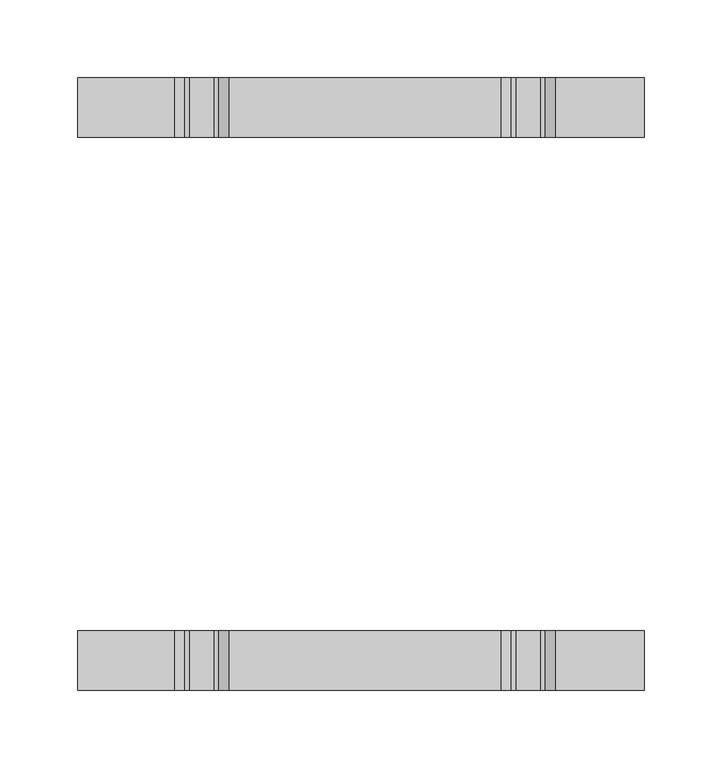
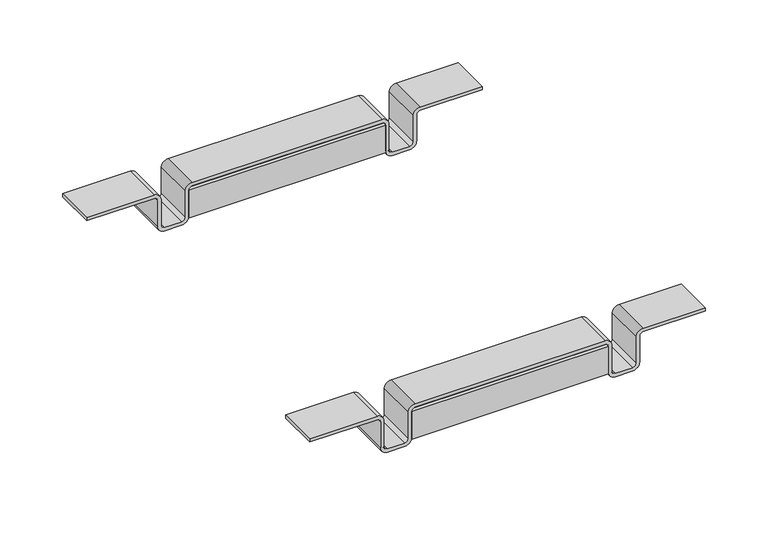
"""IFC4 building model written with IfcOpenShell, lengths in millimetres: furniture geometry, Stance_HC-Spry-Linking_Bracket : SPLB6."""

from ifc_helpers import new_model, si_unit, point, frame, frame_2d, origin, place, context, project, spatial, polyline, circle_curve, trimmed, segment, composite_curve, outline, extrude, source, transform, mapped, element, save


def furniture_35c25156(model_context):
    return source(origin(), model_context, "Body", "SweptSolid", [
        extrude(outline(polyline([(-69.2314833, 193.3575), (-69.2314833, 196.5325), (111.7435167, 196.5325), (111.7435167, 193.3575), (-69.2314833, 193.3575)])), frame((0.0, 0.0, 341.9015102), z_axis=(0.0, 0.0, 1.0), x_axis=(1.0, 0.0, 0.0)), (0.0, 0.0, 1.0), 26.9875),
        extrude(outline(polyline([(-69.2314833, 158.4325), (-69.2314833, 161.6075), (111.7435167, 161.6075), (111.7435167, 158.4325), (-69.2314833, 158.4325)])), frame((0.0, 0.0, 341.9015102), z_axis=(0.0, 0.0, 1.0), x_axis=(1.0, 0.0, 0.0)), (0.0, 0.0, 1.0), 26.9875),
        extrude(outline(polyline([(-69.2314833, -196.5325), (-69.2314833, -193.3575), (111.7435167, -193.3575), (111.7435167, -196.5325), (-69.2314833, -196.5325)])), frame((0.0, 0.0, 341.9015102), z_axis=(0.0, 0.0, 1.0), x_axis=(1.0, 0.0, 0.0)), (0.0, 0.0, 1.0), 26.9875),
        extrude(outline(polyline([(-69.2314833, -161.6075), (-69.2314833, -158.4325), (111.7435167, -158.4325), (111.7435167, -161.6075), (-69.2314833, -161.6075)])), frame((0.0, 0.0, 341.9015102), z_axis=(0.0, 0.0, 1.0), x_axis=(1.0, 0.0, 0.0)), (0.0, 0.0, 1.0), 26.9875),
        extrude(outline(composite_curve([segment(polyline([(375.2390102, -162.8939833), (372.0640102, -162.8939833), (372.0640102, -100.9814833)]), True, "CONTINUOUS"), segment(trimmed(circle_curve(frame_2d((368.8890102, -100.9814833)), 3.175), [point((372.0640102, -100.9814833))], [point((368.8890102, -97.8064833))], True, "CARTESIAN"), True, "CONTINUOUS"), segment(polyline([(368.8890102, -97.8064833), (343.4890102, -97.8064833)]), True, "CONTINUOUS"), segment(trimmed(circle_curve(frame_2d((343.4890102, -91.4564833)), 6.35), [point((343.4890102, -97.8064833))], [point((337.1390102, -91.4564833))], False, "CARTESIAN"), True, "CONTINUOUS"), segment(polyline([(337.1390102, -91.4564833), (337.1390102, -75.5814833)]), True, "CONTINUOUS"), segment(trimmed(circle_curve(frame_2d((343.4890102, -75.5814833)), 6.35), [point((337.1390102, -75.5814833))], [point((343.4890102, -69.2314833))], False, "CARTESIAN"), True, "CONTINUOUS"), segment(polyline([(343.4890102, -69.2314833), (368.8890102, -69.2314833)]), True, "CONTINUOUS"), segment(trimmed(circle_curve(frame_2d((368.8890102, -66.0564833)), 3.175), [point((368.8890102, -69.2314833))], [point((372.0640102, -66.0564833))], True, "CARTESIAN"), True, "CONTINUOUS"), segment(polyline([(372.0640102, -66.0564833), (372.0640102, 108.5685167)]), True, "CONTINUOUS"), segment(trimmed(circle_curve(frame_2d((368.8890102, 108.5685167)), 3.175), [point((372.0640102, 108.5685167))], [point((368.8890102, 111.7435167))], True, "CARTESIAN"), True, "CONTINUOUS"), segment(polyline([(368.8890102, 111.7435167), (343.4890102, 111.7435167)]), True, "CONTINUOUS"), segment(trimmed(circle_curve(frame_2d((343.4890102, 118.0935167)), 6.35), [point((343.4890102, 111.7435167))], [point((337.1390102, 118.0935167))], False, "CARTESIAN"), True, "CONTINUOUS"), segment(polyline([(337.1390102, 118.0935167), (337.1390102, 133.9685167)]), True, "CONTINUOUS"), segment(trimmed(circle_curve(frame_2d((343.4890102, 133.9685167)), 6.35), [point((337.1390102, 133.9685167))], [point((343.4890102, 140.3185167))], False, "CARTESIAN"), True, "CONTINUOUS"), segment(polyline([(343.4890102, 140.3185167), (368.8890102, 140.3185167)]), True, "CONTINUOUS"), segment(trimmed(circle_curve(frame_2d((368.8890102, 143.4935167)), 3.175), [point((368.8890102, 140.3185167))], [point((372.0640102, 143.4935167))], True, "CARTESIAN"), True, "CONTINUOUS"), segment(polyline([(372.0640102, 143.4935167), (372.0640102, 200.6435167), (375.2390102, 200.6435167), (375.2390102, 143.4935167)]), True, "CONTINUOUS"), segment(trimmed(circle_curve(frame_2d((368.8890102, 143.4935167)), 6.35), [point((375.2390102, 143.4935167))], [point((368.8890102, 137.1435167))], False, "CARTESIAN"), True, "CONTINUOUS"), segment(polyline([(368.8890102, 137.1435167), (343.4890102, 137.1435167)]), True, "CONTINUOUS"), segment(trimmed(circle_curve(frame_2d((343.4890102, 133.9685167)), 3.175), [point((343.4890102, 137.1435167))], [point((340.3140102, 133.9685167))], True, "CARTESIAN"), True, "CONTINUOUS"), segment(polyline([(340.3140102, 133.9685167), (340.3140102, 118.0935167)]), True, "CONTINUOUS"), segment(trimmed(circle_curve(frame_2d((343.4890102, 118.0935167)), 3.175), [point((340.3140102, 118.0935167))], [point((343.4890102, 114.9185167))], True, "CARTESIAN"), True, "CONTINUOUS"), segment(polyline([(343.4890102, 114.9185167), (368.8890102, 114.9185167)]), True, "CONTINUOUS"), segment(trimmed(circle_curve(frame_2d((368.8890102, 108.5685167)), 6.35), [point((368.8890102, 114.9185167))], [point((375.2390102, 108.5685167))], False, "CARTESIAN"), True, "CONTINUOUS"), segment(polyline([(375.2390102, 108.5685167), (375.2390102, -66.0564833)]), True, "CONTINUOUS"), segment(trimmed(circle_curve(frame_2d((368.8890102, -66.0564833)), 6.35), [point((375.2390102, -66.0564833))], [point((368.8890102, -72.4064833))], False, "CARTESIAN"), True, "CONTINUOUS"), segment(polyline([(368.8890102, -72.4064833), (343.4890102, -72.4064833)]), True, "CONTINUOUS"), segment(trimmed(circle_curve(frame_2d((343.4890102, -75.5814833)), 3.175), [point((343.4890102, -72.4064833))], [point((340.3140102, -75.5814833))], True, "CARTESIAN"), True, "CONTINUOUS"), segment(polyline([(340.3140102, -75.5814833), (340.3140102, -91.4564833)]), True, "CONTINUOUS"), segment(trimmed(circle_curve(frame_2d((343.4890102, -91.4564833)), 3.175), [point((340.3140102, -91.4564833))], [point((343.4890102, -94.6314833))], True, "CARTESIAN"), True, "CONTINUOUS"), segment(polyline([(343.4890102, -94.6314833), (368.8890102, -94.6314833)]), True, "CONTINUOUS"), segment(trimmed(circle_curve(frame_2d((368.8890102, -100.9814833)), 6.35), [point((368.8890102, -94.6314833))], [point((375.2390102, -100.9814833))], False, "CARTESIAN"), True, "CONTINUOUS"), segment(polyline([(375.2390102, -100.9814833), (375.2390102, -162.8939833)]), True, "CONTINUOUS")], self_intersect=False)), frame((0.0, 158.4325, 0.0), z_axis=(0.0, 1.0, 0.0), x_axis=(0.0, 0.0, 1.0)), (0.0, 0.0, 1.0), 38.1),
        extrude(outline(composite_curve([segment(polyline([(375.2390102, -162.8939833), (372.0640102, -162.8939833), (372.0640102, -100.9814833)]), True, "CONTINUOUS"), segment(trimmed(circle_curve(frame_2d((368.8890102, -100.9814833)), 3.175), [point((372.0640102, -100.9814833))], [point((368.8890102, -97.8064833))], True, "CARTESIAN"), True, "CONTINUOUS"), segment(polyline([(368.8890102, -97.8064833), (343.4890102, -97.8064833)]), True, "CONTINUOUS"), segment(trimmed(circle_curve(frame_2d((343.4890102, -91.4564833)), 6.35), [point((343.4890102, -97.8064833))], [point((337.1390102, -91.4564833))], False, "CARTESIAN"), True, "CONTINUOUS"), segment(polyline([(337.1390102, -91.4564833), (337.1390102, -75.5814833)]), True, "CONTINUOUS"), segment(trimmed(circle_curve(frame_2d((343.4890102, -75.5814833)), 6.35), [point((337.1390102, -75.5814833))], [point((343.4890102, -69.2314833))], False, "CARTESIAN"), True, "CONTINUOUS"), segment(polyline([(343.4890102, -69.2314833), (368.8890102, -69.2314833)]), True, "CONTINUOUS"), segment(trimmed(circle_curve(frame_2d((368.8890102, -66.0564833)), 3.175), [point((368.8890102, -69.2314833))], [point((372.0640102, -66.0564833))], True, "CARTESIAN"), True, "CONTINUOUS"), segment(polyline([(372.0640102, -66.0564833), (372.0640102, 108.5685167)]), True, "CONTINUOUS"), segment(trimmed(circle_curve(frame_2d((368.8890102, 108.5685167)), 3.175), [point((372.0640102, 108.5685167))], [point((368.8890102, 111.7435167))], True, "CARTESIAN"), True, "CONTINUOUS"), segment(polyline([(368.8890102, 111.7435167), (343.4890102, 111.7435167)]), True, "CONTINUOUS"), segment(trimmed(circle_curve(frame_2d((343.4890102, 118.0935167)), 6.35), [point((343.4890102, 111.7435167))], [point((337.1390102, 118.0935167))], False, "CARTESIAN"), True, "CONTINUOUS"), segment(polyline([(337.1390102, 118.0935167), (337.1390102, 133.9685167)]), True, "CONTINUOUS"), segment(trimmed(circle_curve(frame_2d((343.4890102, 133.9685167)), 6.35), [point((337.1390102, 133.9685167))], [point((343.4890102, 140.3185167))], False, "CARTESIAN"), True, "CONTINUOUS"), segment(polyline([(343.4890102, 140.3185167), (368.8890102, 140.3185167)]), True, "CONTINUOUS"), segment(trimmed(circle_curve(frame_2d((368.8890102, 143.4935167)), 3.175), [point((368.8890102, 140.3185167))], [point((372.0640102, 143.4935167))], True, "CARTESIAN"), True, "CONTINUOUS"), segment(polyline([(372.0640102, 143.4935167), (372.0640102, 200.6435167), (375.2390102, 200.6435167), (375.2390102, 143.4935167)]), True, "CONTINUOUS"), segment(trimmed(circle_curve(frame_2d((368.8890102, 143.4935167)), 6.35), [point((375.2390102, 143.4935167))], [point((368.8890102, 137.1435167))], False, "CARTESIAN"), True, "CONTINUOUS"), segment(polyline([(368.8890102, 137.1435167), (343.4890102, 137.1435167)]), True, "CONTINUOUS"), segment(trimmed(circle_curve(frame_2d((343.4890102, 133.9685167)), 3.175), [point((343.4890102, 137.1435167))], [point((340.3140102, 133.9685167))], True, "CARTESIAN"), True, "CONTINUOUS"), segment(polyline([(340.3140102, 133.9685167), (340.3140102, 118.0935167)]), True, "CONTINUOUS"), segment(trimmed(circle_curve(frame_2d((343.4890102, 118.0935167)), 3.175), [point((340.3140102, 118.0935167))], [point((343.4890102, 114.9185167))], True, "CARTESIAN"), True, "CONTINUOUS"), segment(polyline([(343.4890102, 114.9185167), (368.8890102, 114.9185167)]), True, "CONTINUOUS"), segment(trimmed(circle_curve(frame_2d((368.8890102, 108.5685167)), 6.35), [point((368.8890102, 114.9185167))], [point((375.2390102, 108.5685167))], False, "CARTESIAN"), True, "CONTINUOUS"), segment(polyline([(375.2390102, 108.5685167), (375.2390102, -66.0564833)]), True, "CONTINUOUS"), segment(trimmed(circle_curve(frame_2d((368.8890102, -66.0564833)), 6.35), [point((375.2390102, -66.0564833))], [point((368.8890102, -72.4064833))], False, "CARTESIAN"), True, "CONTINUOUS"), segment(polyline([(368.8890102, -72.4064833), (343.4890102, -72.4064833)]), True, "CONTINUOUS"), segment(trimmed(circle_curve(frame_2d((343.4890102, -75.5814833)), 3.175), [point((343.4890102, -72.4064833))], [point((340.3140102, -75.5814833))], True, "CARTESIAN"), True, "CONTINUOUS"), segment(polyline([(340.3140102, -75.5814833), (340.3140102, -91.4564833)]), True, "CONTINUOUS"), segment(trimmed(circle_curve(frame_2d((343.4890102, -91.4564833)), 3.175), [point((340.3140102, -91.4564833))], [point((343.4890102, -94.6314833))], True, "CARTESIAN"), True, "CONTINUOUS"), segment(polyline([(343.4890102, -94.6314833), (368.8890102, -94.6314833)]), True, "CONTINUOUS"), segment(trimmed(circle_curve(frame_2d((368.8890102, -100.9814833)), 6.35), [point((368.8890102, -94.6314833))], [point((375.2390102, -100.9814833))], False, "CARTESIAN"), True, "CONTINUOUS"), segment(polyline([(375.2390102, -100.9814833), (375.2390102, -162.8939833)]), True, "CONTINUOUS")], self_intersect=False)), frame((0.0, -196.5325, 0.0), z_axis=(0.0, 1.0, 0.0), x_axis=(0.0, 0.0, 1.0)), (0.0, 0.0, 1.0), 38.1),
    ])


if __name__ == "__main__":
    model = new_model("IFC4")
    model_context = context("Model", 3, world=origin())
    ifc_project = project(units=[si_unit("LENGTHUNIT", "METRE", prefix="MILLI")], contexts=[model_context])
    site = spatial("IfcSite", under=ifc_project)
    building = spatial("IfcBuilding", under=site)
    placement = place(None, origin())
    furniture_shape = furniture_35c25156(model_context)
    element("IfcFurniture", 1, ObjectType="Stance_HC-Spry-Linking_Bracket : SPLB6", at=placement, inside=building, context=model_context, shape_type="MappedRepresentation", body=[
        mapped(furniture_shape, transform((0.0, 0.0, 0.0), x_axis=(1.0, 0.0, 0.0), y_axis=(0.0, 1.0, 0.0), z_axis=(0.0, 0.0, 1.0))),
    ])
    save(model, "model.ifc")
